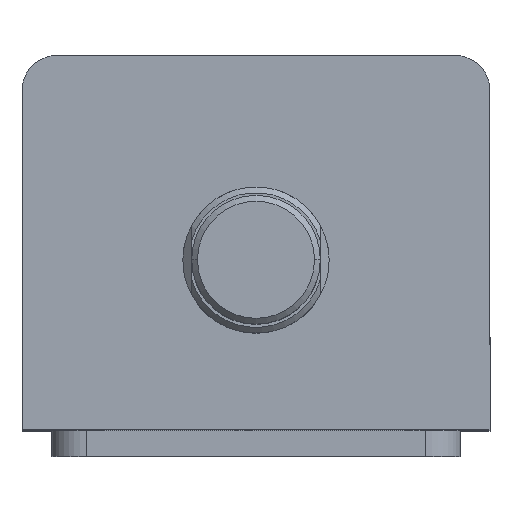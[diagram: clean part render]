
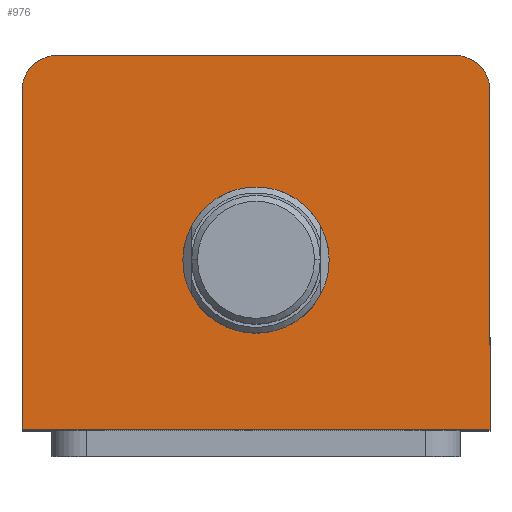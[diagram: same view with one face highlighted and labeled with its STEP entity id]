
A CAD part, top view. The second image highlights one B-rep face of the part: STEP entity #976.
In plain terms, the highlighted planar face has unit normal (0, 0, 1).
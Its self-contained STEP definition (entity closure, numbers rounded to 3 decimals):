
#41 = DIRECTION ( 'NONE',  ( 1., 0., 0. ) ) ;
#52 = DIRECTION ( 'NONE',  ( 0., 0., 1. ) ) ;
#55 = CARTESIAN_POINT ( 'NONE',  ( 0., -3., 140. ) ) ;
#100 = DIRECTION ( 'NONE',  ( 1., 0., 0. ) ) ;
#103 = DIRECTION ( 'NONE',  ( 0., 0., 1. ) ) ;
#106 = CARTESIAN_POINT ( 'NONE',  ( -34., 26., 140. ) ) ;
#113 = DIRECTION ( 'NONE',  ( 0., -1., 0. ) ) ;
#114 = CARTESIAN_POINT ( 'NONE',  ( -40., 32., 140. ) ) ;
#144 = VERTEX_POINT ( 'NONE', #3020 ) ;
#159 = EDGE_CURVE ( 'NONE', #1062, #1058, #1504, .T. ) ;
#174 = VERTEX_POINT ( 'NONE', #2976 ) ;
#240 = VERTEX_POINT ( 'NONE', #2866 ) ;
#286 = EDGE_CURVE ( 'NONE', #174, #240, #1599, .T. ) ;
#297 = EDGE_CURVE ( 'NONE', #1068, #174, #1618, .T. ) ;
#592 = AXIS2_PLACEMENT_3D ( 'NONE', #3033, #3032, #3031 ) ;
#596 = EDGE_CURVE ( 'NONE', #240, #144, #2248, .T. ) ;
#745 = CARTESIAN_POINT ( 'NONE',  ( -40., -32., 140. ) ) ;
#841 = ORIENTED_EDGE ( 'NONE', *, *, #3239, .F. ) ;
#843 = ORIENTED_EDGE ( 'NONE', *, *, #159, .F. ) ;
#846 = ORIENTED_EDGE ( 'NONE', *, *, #596, .T. ) ;
#884 = ORIENTED_EDGE ( 'NONE', *, *, #3760, .T. ) ;
#885 = ORIENTED_EDGE ( 'NONE', *, *, #1909, .T. ) ;
#886 = ORIENTED_EDGE ( 'NONE', *, *, #286, .T. ) ;
#888 = ORIENTED_EDGE ( 'NONE', *, *, #297, .T. ) ;
#899 = ORIENTED_EDGE ( 'NONE', *, *, #2680, .T. ) ;
#976 = ADVANCED_FACE ( 'NONE', ( #2463, #2479 ), #3510, .T. ) ;
#1051 = VERTEX_POINT ( 'NONE', #3280 ) ;
#1058 = VERTEX_POINT ( 'NONE', #3273 ) ;
#1062 = VERTEX_POINT ( 'NONE', #3268 ) ;
#1068 = VERTEX_POINT ( 'NONE', #3262 ) ;
#1087 = VERTEX_POINT ( 'NONE', #745 ) ;
#1452 = EDGE_LOOP ( 'NONE', ( #846, #899, #884, #885, #888, #886 ) ) ;
#1457 = EDGE_LOOP ( 'NONE', ( #841, #843 ) ) ;
#1504 = CIRCLE ( 'NONE', #592, 12.5 ) ;
#1599 = CIRCLE ( 'NONE', #1926, 6. ) ;
#1618 = LINE ( 'NONE', #2844, #1621 ) ;
#1621 = VECTOR ( 'NONE', #2843, 1000. ) ;
#1909 = EDGE_CURVE ( 'NONE', #1087, #1068, #2668, .T. ) ;
#1926 = AXIS2_PLACEMENT_3D ( 'NONE', #2890, #2889, #2888 ) ;
#2037 = AXIS2_PLACEMENT_3D ( 'NONE', #3490, #3488, #3489 ) ;
#2125 = AXIS2_PLACEMENT_3D ( 'NONE', #106, #103, #100 ) ;
#2129 = AXIS2_PLACEMENT_3D ( 'NONE', #55, #52, #41 ) ;
#2248 = LINE ( 'NONE', #2795, #2251 ) ;
#2251 = VECTOR ( 'NONE', #3740, 1000. ) ;
#2463 = FACE_BOUND ( 'NONE', #1457, .T. ) ;
#2479 = FACE_OUTER_BOUND ( 'NONE', #1452, .T. ) ;
#2668 = LINE ( 'NONE', #3174, #2671 ) ;
#2671 = VECTOR ( 'NONE', #3172, 1000. ) ;
#2680 = EDGE_CURVE ( 'NONE', #144, #1051, #2681, .T. ) ;
#2681 = CIRCLE ( 'NONE', #2125, 6. ) ;
#2690 = CIRCLE ( 'NONE', #2129, 12.5 ) ;
#2695 = LINE ( 'NONE', #114, #2704 ) ;
#2704 = VECTOR ( 'NONE', #113, 1000. ) ;
#2795 = CARTESIAN_POINT ( 'NONE',  ( -40., 32., 140. ) ) ;
#2843 = DIRECTION ( 'NONE',  ( 0., 1., 0. ) ) ;
#2844 = CARTESIAN_POINT ( 'NONE',  ( 40., 32., 140. ) ) ;
#2866 = CARTESIAN_POINT ( 'NONE',  ( 34., 32., 140. ) ) ;
#2888 = DIRECTION ( 'NONE',  ( 1., 0., 0. ) ) ;
#2889 = DIRECTION ( 'NONE',  ( 0., 0., 1. ) ) ;
#2890 = CARTESIAN_POINT ( 'NONE',  ( 34., 26., 140. ) ) ;
#2976 = CARTESIAN_POINT ( 'NONE',  ( 40., 26., 140. ) ) ;
#3020 = CARTESIAN_POINT ( 'NONE',  ( -34., 32., 140. ) ) ;
#3031 = DIRECTION ( 'NONE',  ( 1., 0., 0. ) ) ;
#3032 = DIRECTION ( 'NONE',  ( 0., 0., 1. ) ) ;
#3033 = CARTESIAN_POINT ( 'NONE',  ( 0., -3., 140. ) ) ;
#3172 = DIRECTION ( 'NONE',  ( 1., 0., 0. ) ) ;
#3174 = CARTESIAN_POINT ( 'NONE',  ( -40., -32., 140. ) ) ;
#3239 = EDGE_CURVE ( 'NONE', #1058, #1062, #2690, .T. ) ;
#3262 = CARTESIAN_POINT ( 'NONE',  ( 40., -32., 140. ) ) ;
#3268 = CARTESIAN_POINT ( 'NONE',  ( -12.5, -3., 140. ) ) ;
#3273 = CARTESIAN_POINT ( 'NONE',  ( 12.5, -3., 140. ) ) ;
#3280 = CARTESIAN_POINT ( 'NONE',  ( -40., 26., 140. ) ) ;
#3488 = DIRECTION ( 'NONE',  ( 0., 0., 1. ) ) ;
#3489 = DIRECTION ( 'NONE',  ( 1., 0., 0. ) ) ;
#3490 = CARTESIAN_POINT ( 'NONE',  ( 0., 0., 140. ) ) ;
#3510 = PLANE ( 'NONE',  #2037 ) ;
#3740 = DIRECTION ( 'NONE',  ( -1., 0., 0. ) ) ;
#3760 = EDGE_CURVE ( 'NONE', #1051, #1087, #2695, .T. ) ;
